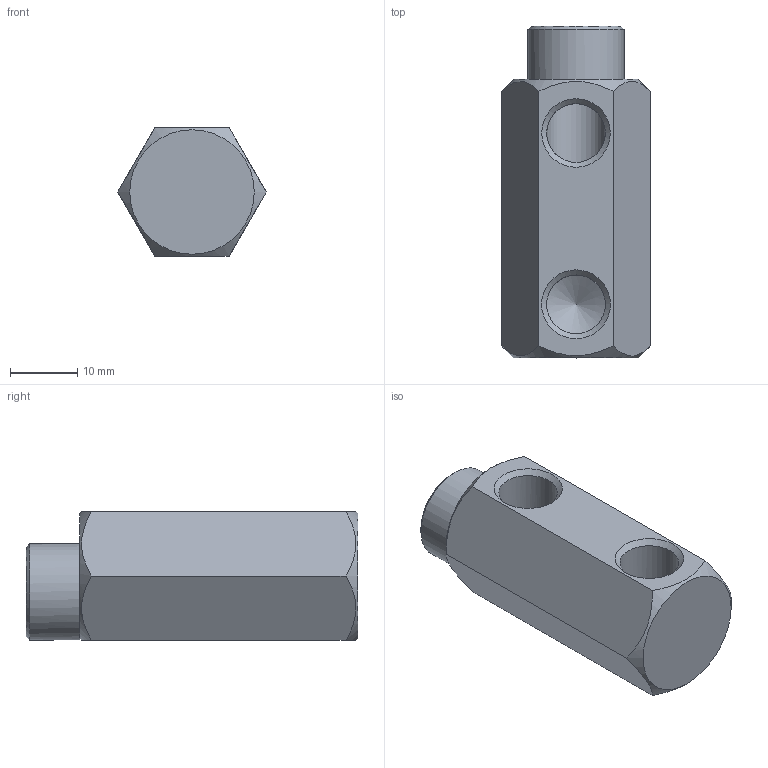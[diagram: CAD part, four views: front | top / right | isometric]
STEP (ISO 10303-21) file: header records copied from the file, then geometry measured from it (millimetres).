
FILE_DESCRIPTION(/* description */ (''),/* implementation_level */ '2;1');
FILE_NAME(/* name */ 'C:/Users/drich/Desktop/HF181H v2.step',/* time_stamp */ '2019-11-18T13:49:19-06:00',/* author */ (''),/* organization */ (''),/* preprocessor_version */ 'ST-DEVELOPER v18',/* originating_system */ 'Autodesk Translation Framework v8.12.0.6',/* authorisation */ '');
FILE_SCHEMA (('AUTOMOTIVE_DESIGN { 1 0 10303 214 3 1 1 }'));
Length unit declared in the file: inch
Products named in the file (2): HF181H; HF181H_1
Assembly tree (1 placements, depth 2):
  HF181H
    HF181H_1
Bounding box: 22 x 49.2 x 19.05 mm (x, y, z)
Volume: 11017 mm3; surface area: 4946.4 mm2
Topology: 1 solids, 1 shells, 25 faces, 64 edges, 41 vertices
Faces by surface type: cone 10, plane 10, cylinder 5
Full cylindrical faces by diameter (mm): 5.474 x1, 8.707 x3, 14.275 x1
Entity records: 852 total; most frequent: CARTESIAN_POINT 205, DIRECTION 127, ORIENTED_EDGE 126, EDGE_CURVE 63, AXIS2_PLACEMENT_3D 54, VERTEX_POINT 41, EDGE_LOOP 30, FACE_OUTER_BOUND 25
